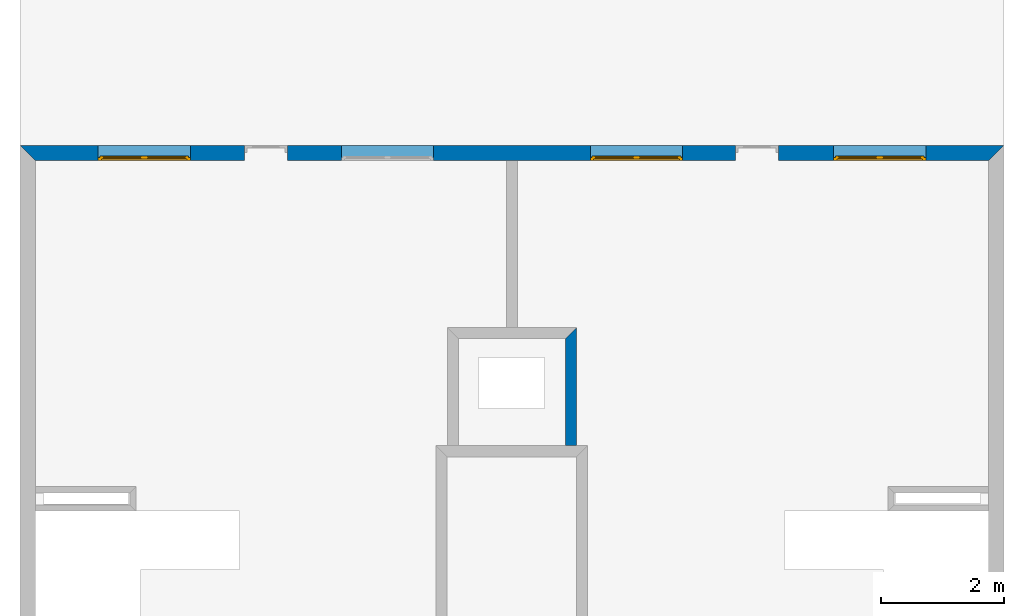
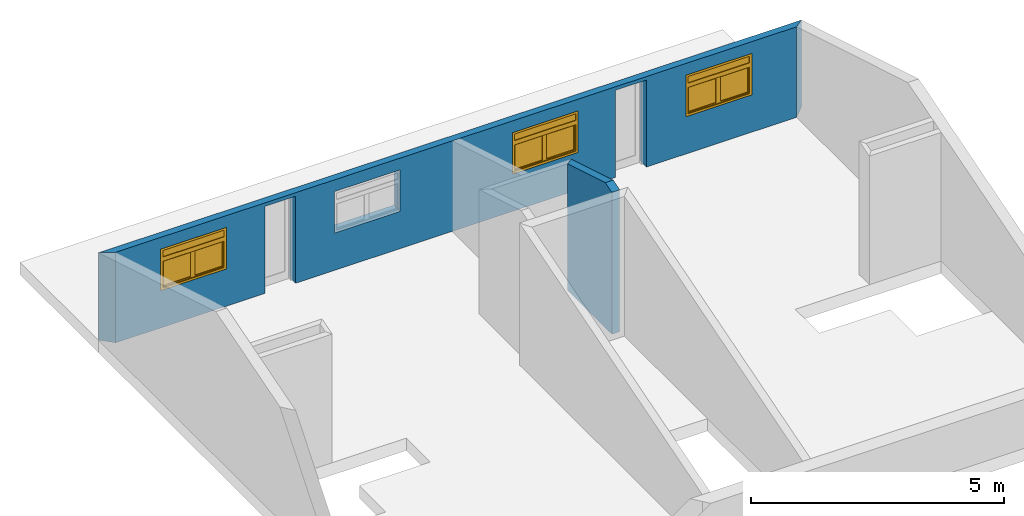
# One storey, part 2 of 3: 3 windows, 2 walls, 6 openings.
"""IFC2X3 building model written with IfcOpenShell, lengths in metres."""

from ifc_helpers import new_model, entity, si_unit, converted_unit, direction, frame, frame_2d, origin_with_axes, place, context, project, spatial, polyline, rectangle, outline, extrude, clip, bounded_halfspace, faceted_brep, source, transform, mapped, material, layer, layer_set, layer_usage, type_object, element, fill, save


model = new_model("IFC2X3")

# Units and contexts
context_of_model = context(None, 3, precision=1e-05, world=origin_with_axes(), true_north=direction((6.123234e-17, 1.0)))
plan_context = context("Plan", 3, precision=1e-05, world=origin_with_axes(), true_north=direction((6.123234e-17, 1.0)))
model_context = context("Model", 3, precision=1e-05, world=origin_with_axes(), true_north=direction((6.123234e-17, 1.0)))
ifc_project = project(units=[si_unit("LENGTHUNIT", "METRE"), si_unit("AREAUNIT", "SQUARE_METRE"), si_unit("VOLUMEUNIT", "CUBIC_METRE"), converted_unit("PLANEANGLEUNIT", "DEGREE", entity("IfcPlaneAngleMeasure", 0.017453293), si_unit("PLANEANGLEUNIT", "RADIAN"), dimensions=[0, 0, 0, 0, 0, 0, 0]), si_unit("SOLIDANGLEUNIT", "STERADIAN"), si_unit("MASSUNIT", "GRAM"), si_unit("TIMEUNIT", "SECOND"), si_unit("THERMODYNAMICTEMPERATUREUNIT", "DEGREE_CELSIUS"), si_unit("LUMINOUSINTENSITYUNIT", "LUMEN")], contexts=[context_of_model, plan_context, model_context])

# Site, building, storey
site_placement = place(None, origin_with_axes())
site = spatial("IfcSite", under=ifc_project, at=site_placement, Name="Por defecto Sitio", CompositionType="ELEMENT")
building_placement = place(site_placement, origin_with_axes())
building = spatial("IfcBuilding", under=site, at=building_placement, Name="Por defecto Edificio", CompositionType="ELEMENT")
storey_placement = place(building_placement, frame((0.0, 0.0, 16.2), z_axis=(0.0, 0.0, 1.0), x_axis=(1.0, 0.0, 0.0)))
storey = spatial("IfcBuildingStorey", under=building, at=storey_placement, Name="Bajo cubierta", CompositionType="ELEMENT", Elevation=16.2)

# Wall, openings, windows
ifc_material = material(Name="Ladrillo común")
ifc_layer_1 = layer(ifc_material, 0.25, ventilated="UNKNOWN")
ifc_layer_set_1 = layer_set([ifc_layer_1], Name="Ladrillo común")
ifc_layer_usage_1 = layer_usage(ifc_layer_set_1, "AXIS2", "POSITIVE", 0.0)
wall_type_1 = type_object("IfcWallType", Name="Ladrillo común", PredefinedType="NOTDEFINED")
wall_1_placement = place(storey_placement, frame((16.03417, 12.372599, 0.0), z_axis=(0.0, 0.0, 1.0), x_axis=(-1.0, 0.0, 0.0)))
wall_1 = element("IfcWallStandardCase", 1, at=wall_1_placement, inside=storey, type_object=wall_type_1, material=ifc_layer_usage_1, Name="Muro-018", context=context_of_model, shape_type="Clipping", body=[
    clip(extrude(outline(polyline([(0.0, 0.0), (16.03417, 0.0), (15.78417, 0.25), (0.25, 0.25), (0.0, 0.0)])), origin_with_axes(), (0.0, 0.0, 1.0), 3.5), bounded_halfspace(frame((2.9219849e-17, -0.58049391, 1.934887), z_axis=(1.4464632e-17, -0.28736052, 0.95782249), x_axis=(0.0, 0.95782249, 0.28736052)), False, origin_with_axes(), polyline([(16.03417, 4.6362995), (5.6488147e-13, 4.6362995), (5.6488147e-13, -0.40882873), (16.03417, -0.40882873), (16.03417, 4.6362995)]))),
])
opening_1_placement = place(wall_1_placement, frame((12.028221, 0.0, 0.0), z_axis=(0.0, 0.0, 1.0), x_axis=(1.0, 0.0, 0.0)))
element("IfcOpeningElement", 2, at=opening_1_placement, cuts=wall_1, ObjectType="Opening", context=model_context, shape_type="SweptSolid", body=[
    extrude(rectangle(XDim=0.7, YDim=2.1, at=frame_2d((0.0, 1.05), x_axis=(-1.0, 0.0))), frame((0.0, 0.0, 0.0), z_axis=(0.0, 1.0, 0.0), x_axis=(-1.0, 0.0, 0.0)), (0.0, 0.0, 1.0), 0.25),
])
opening_2_placement = place(wall_1_placement, frame((4.0278001, 0.0, 0.0), z_axis=(0.0, 0.0, 1.0), x_axis=(1.0, 0.0, 0.0)))
element("IfcOpeningElement", 3, at=opening_2_placement, cuts=wall_1, ObjectType="Opening", context=model_context, shape_type="SweptSolid", body=[
    extrude(rectangle(XDim=0.7, YDim=2.1, at=frame_2d((0.0, 1.05), x_axis=(-1.0, 0.0))), frame((0.0, 0.0, 0.0), z_axis=(0.0, 1.0, 0.0), x_axis=(-1.0, 0.0, 0.0)), (0.0, 0.0, 1.0), 0.25),
])
opening_3_placement = place(wall_1_placement, frame((5.9881821, 0.0, 0.9), z_axis=(0.0, 0.0, 1.0), x_axis=(1.0, 0.0, 0.0)))
opening_3 = element("IfcOpeningElement", 4, at=opening_3_placement, cuts=wall_1, ObjectType="Opening", context=model_context, shape_type="SweptSolid", body=[
    extrude(rectangle(XDim=1.5, YDim=1.0, at=frame_2d((0.0, 0.5), x_axis=(1.0, 0.0))), frame((0.0, 0.0, 0.0), z_axis=(0.0, 1.0, 0.0), x_axis=(-1.0, 0.0, 0.0)), (0.0, 0.0, 1.0), 0.25),
])
opening_4_placement = place(wall_1_placement, frame((2.024733, 0.0, 0.9), z_axis=(0.0, 0.0, 1.0), x_axis=(1.0, 0.0, 0.0)))
opening_4 = element("IfcOpeningElement", 5, at=opening_4_placement, cuts=wall_1, ObjectType="Opening", context=model_context, shape_type="SweptSolid", body=[
    extrude(rectangle(XDim=1.5, YDim=1.0, at=frame_2d((0.0, 0.5), x_axis=(-1.0, 0.0))), frame((0.0, 0.0, 0.0), z_axis=(0.0, 1.0, 0.0), x_axis=(-1.0, 0.0, 0.0)), (0.0, 0.0, 1.0), 0.25),
])
opening_5_placement = place(wall_1_placement, frame((10.046584, 0.0, 0.9), z_axis=(0.0, 0.0, 1.0), x_axis=(1.0, 0.0, 0.0)))
element("IfcOpeningElement", 6, at=opening_5_placement, cuts=wall_1, ObjectType="Opening", context=model_context, shape_type="SweptSolid", body=[
    extrude(rectangle(XDim=1.5, YDim=1.0, at=frame_2d((0.0, 0.5), x_axis=(-1.0, 0.0))), frame((0.0, 0.0, 0.0), z_axis=(0.0, 1.0, 0.0), x_axis=(-1.0, 0.0, 0.0)), (0.0, 0.0, 1.0), 0.25),
])
opening_6_placement = place(wall_1_placement, frame((14.009437, 0.0, 0.9), z_axis=(0.0, 0.0, 1.0), x_axis=(1.0, 0.0, 0.0)))
opening_6 = element("IfcOpeningElement", 7, at=opening_6_placement, cuts=wall_1, ObjectType="Opening", context=model_context, shape_type="SweptSolid", body=[
    extrude(rectangle(XDim=1.5, YDim=1.0, at=frame_2d((0.0, 0.5), x_axis=(1.0, 0.0))), frame((0.0, 0.0, 0.0), z_axis=(0.0, 1.0, 0.0), x_axis=(-1.0, 0.0, 0.0)), (0.0, 0.0, 1.0), 0.25),
])
window_style_1 = type_object("IfcWindowStyle", Name="V M Doble 12", ConstructionType="NOTDEFINED", OperationType="DOUBLE_PANEL_HORIZONTAL", ParameterTakesPrecedence=False, Sizeable=False)
shared_shape = source(origin_with_axes(), model_context, "Body", "Brep", [
    faceted_brep([(0.025, 0.05, 0.05), (0.0, 0.05, 0.05), (0.0, 0.05, 0.95), (0.05, 0.05, 0.95), (0.05, 0.05, 0.79), (0.05, 0.05, 0.715), (0.025, 0.05, 0.715), (0.025, 0.025, 0.05), (0.05, 0.025, 0.05), (0.05, 0.0, 0.05), (0.0, 0.0, 0.05), (0.0, 0.0, 0.95), (0.05, 0.0, 0.95), (0.05, 0.0, 0.79), (0.05, 0.025, 0.715), (0.05, 0.0, 0.69), (0.05, 0.025, 0.69), (0.025, 0.025, 0.715)], [[[0, 1, 2, 3, 4, 5, 6]], [[7, 8, 9, 10, 1, 0]], [[2, 1, 10, 11]], [[3, 2, 11, 12]], [[4, 3, 12, 13]], [[14, 5, 4, 13, 15, 16]], [[14, 17, 6, 5]], [[6, 17, 7, 0]], [[16, 8, 7, 17, 14]], [[16, 15, 9, 8]], [[13, 12, 11, 10, 9, 15]]]),
    faceted_brep([(1.475, 0.05, 0.715), (1.45, 0.05, 0.715), (1.45, 0.05, 0.79), (1.45, 0.05, 0.95), (1.5, 0.05, 0.95), (1.5, 0.05, 0.05), (1.475, 0.05, 0.05), (1.475, 0.025, 0.715), (1.45, 0.025, 0.715), (1.45, 0.025, 0.69), (1.45, 0.0, 0.69), (1.45, 0.0, 0.79), (1.45, 0.0, 0.95), (1.5, 0.0, 0.95), (1.5, 0.0, 0.05), (1.475, 0.025, 0.05), (1.45, 0.0, 0.05), (1.45, 0.025, 0.05)], [[[0, 1, 2, 3, 4, 5, 6]], [[0, 7, 8, 1]], [[8, 9, 10, 11, 2, 1]], [[3, 2, 11, 12]], [[4, 3, 12, 13]], [[5, 4, 13, 14]], [[15, 6, 5, 14, 16, 17]], [[6, 15, 7, 0]], [[17, 9, 8, 7, 15]], [[17, 16, 10, 9]], [[14, 13, 12, 11, 10, 16]]]),
    faceted_brep([(0.05, 0.05, 0.715), (0.05, 0.05, 0.79), (1.45, 0.05, 0.79), (1.45, 0.05, 0.715), (0.75, 0.05, 0.715), (0.05, 0.025, 0.715), (0.05, 0.025, 0.69), (0.05, 0.0, 0.69), (0.05, 0.0, 0.79), (1.45, 0.0, 0.79), (1.45, 0.025, 0.715), (1.45, 0.0, 0.69), (1.45, 0.025, 0.69), (0.75, 0.025, 0.715)], [[[0, 1, 2, 3, 4]], [[5, 6, 7, 8, 1, 0]], [[2, 1, 8, 9]], [[10, 3, 2, 9, 11, 12]], [[10, 13, 4, 3]], [[4, 13, 5, 0]], [[12, 6, 5, 13, 10]], [[12, 11, 7, 6]], [[9, 8, 7, 11]]]),
    faceted_brep([(1.45, 0.025, 0.05), (1.45, 0.0, 0.05), (1.5, 0.0, 0.05), (1.5, 0.05, 0.05), (1.475, 0.05, 0.05), (1.475, 0.025, 0.05), (0.05, 0.025, 0.05), (0.05, 0.0, 0.05), (0.0, 0.0, 0.05), (0.0, 0.0, 0.0), (1.5, 0.0, 0.0), (1.5, 0.05, 0.0), (0.025, 0.05, 0.025), (0.75, 0.05, 0.025), (1.475, 0.05, 0.025), (0.0, 0.05, 0.0), (0.0, 0.05, 0.05), (0.025, 0.05, 0.05), (1.475, 0.025, 0.025), (0.75, 0.025, 0.025), (0.025, 0.025, 0.025), (0.025, 0.025, 0.05)], [[[0, 1, 2, 3, 4, 5]], [[6, 7, 1, 0]], [[8, 9, 10, 2, 1, 7]], [[11, 3, 2, 10]], [[12, 13, 14, 4, 3, 11, 15, 16, 17]], [[14, 18, 5, 4]], [[5, 18, 19, 20, 21, 6, 0]], [[21, 17, 16, 8, 7, 6]], [[16, 15, 9, 8]], [[15, 11, 10, 9]], [[12, 20, 19, 13]], [[13, 19, 18, 14]], [[21, 20, 12, 17]]]),
    faceted_brep([(1.45, 0.0, 0.95), (1.45, 0.05, 0.95), (1.5, 0.05, 0.95), (1.5, 0.0, 0.95), (0.05, 0.0, 0.95), (0.05, 0.05, 0.95), (0.0, 0.05, 0.95), (0.0, 0.05, 1.0), (1.5, 0.05, 1.0), (1.5, 0.0, 1.0), (0.0, 0.0, 1.0), (0.0, 0.0, 0.95)], [[[0, 1, 2, 3]], [[4, 5, 1, 0]], [[1, 5, 6, 7, 8, 2]], [[3, 2, 8, 9]], [[0, 3, 9, 10, 11, 4]], [[11, 6, 5, 4]], [[10, 7, 6, 11]], [[9, 8, 7, 10]]]),
    faceted_brep([(1.425, 0.025, 0.075), (1.425, 0.025, 0.665), (1.425, 0.075, 0.665), (1.425, 0.075, 0.075), (1.475, 0.025, 0.075), (1.475, 0.025, 0.665), (1.475, 0.075, 0.665), (1.475, 0.075, 0.075)], [[[0, 1, 2, 3]], [[0, 4, 5, 1]], [[1, 5, 6, 2]], [[3, 2, 6, 7]], [[4, 0, 3, 7]], [[5, 4, 7, 6]]]),
    faceted_brep([(0.75, 0.025, 0.075), (0.75, 0.025, 0.665), (0.75, 0.075, 0.665), (0.75, 0.075, 0.075), (0.8, 0.025, 0.075), (0.8, 0.025, 0.665), (0.8, 0.075, 0.665), (0.8, 0.075, 0.075)], [[[0, 1, 2, 3]], [[0, 4, 5, 1]], [[1, 5, 6, 2]], [[3, 2, 6, 7]], [[4, 0, 3, 7]], [[5, 4, 7, 6]]]),
    faceted_brep([(0.75, 0.025, 0.025), (0.75, 0.025, 0.075), (0.75, 0.075, 0.075), (0.75, 0.075, 0.025), (1.475, 0.025, 0.025), (1.475, 0.025, 0.075), (1.425, 0.025, 0.075), (0.8, 0.025, 0.075), (0.8, 0.075, 0.075), (1.425, 0.075, 0.075), (1.475, 0.075, 0.075), (1.475, 0.075, 0.025)], [[[0, 1, 2, 3]], [[0, 4, 5, 6, 7, 1]], [[1, 7, 8, 2]], [[3, 2, 8, 9, 10, 11]], [[4, 0, 3, 11]], [[5, 4, 11, 10]], [[6, 5, 10, 9]], [[7, 6, 9, 8]]]),
    faceted_brep([(1.475, 0.025, 0.715), (1.475, 0.025, 0.665), (1.475, 0.075, 0.665), (1.475, 0.075, 0.715), (0.75, 0.025, 0.715), (0.75, 0.025, 0.665), (0.8, 0.025, 0.665), (1.425, 0.025, 0.665), (1.425, 0.075, 0.665), (0.8, 0.075, 0.665), (0.75, 0.075, 0.665), (0.75, 0.075, 0.715)], [[[0, 1, 2, 3]], [[0, 4, 5, 6, 7, 1]], [[1, 7, 8, 2]], [[3, 2, 8, 9, 10, 11]], [[4, 0, 3, 11]], [[5, 4, 11, 10]], [[6, 5, 10, 9]], [[7, 6, 9, 8]]]),
    faceted_brep([(1.425, 0.04, 0.075), (0.8, 0.04, 0.075), (0.8, 0.06, 0.075), (1.425, 0.06, 0.075), (1.425, 0.04, 0.665), (0.8, 0.04, 0.665), (0.8, 0.06, 0.665), (1.425, 0.06, 0.665)], [[[0, 1, 2, 3]], [[0, 4, 5, 1]], [[1, 5, 6, 2]], [[3, 2, 6, 7]], [[4, 0, 3, 7]], [[5, 4, 7, 6]]]),
    faceted_brep([(0.7, 0.025, 0.075), (0.7, 0.025, 0.665), (0.7, 0.075, 0.665), (0.7, 0.075, 0.075), (0.75, 0.025, 0.075), (0.75, 0.025, 0.665), (0.75, 0.075, 0.665), (0.75, 0.075, 0.075)], [[[0, 1, 2, 3]], [[0, 4, 5, 1]], [[1, 5, 6, 2]], [[3, 2, 6, 7]], [[4, 0, 3, 7]], [[5, 4, 7, 6]]]),
    faceted_brep([(0.025, 0.025, 0.075), (0.025, 0.025, 0.665), (0.025, 0.075, 0.665), (0.025, 0.075, 0.075), (0.075, 0.025, 0.075), (0.075, 0.025, 0.665), (0.075, 0.075, 0.665), (0.075, 0.075, 0.075)], [[[0, 1, 2, 3]], [[0, 4, 5, 1]], [[1, 5, 6, 2]], [[3, 2, 6, 7]], [[4, 0, 3, 7]], [[5, 4, 7, 6]]]),
    faceted_brep([(0.025, 0.025, 0.025), (0.025, 0.025, 0.075), (0.025, 0.075, 0.075), (0.025, 0.075, 0.025), (0.75, 0.025, 0.025), (0.75, 0.025, 0.075), (0.7, 0.025, 0.075), (0.075, 0.025, 0.075), (0.075, 0.075, 0.075), (0.7, 0.075, 0.075), (0.75, 0.075, 0.075), (0.75, 0.075, 0.025)], [[[0, 1, 2, 3]], [[0, 4, 5, 6, 7, 1]], [[1, 7, 8, 2]], [[3, 2, 8, 9, 10, 11]], [[4, 0, 3, 11]], [[5, 4, 11, 10]], [[6, 5, 10, 9]], [[7, 6, 9, 8]]]),
    faceted_brep([(0.75, 0.025, 0.715), (0.75, 0.025, 0.665), (0.75, 0.075, 0.665), (0.75, 0.075, 0.715), (0.025, 0.025, 0.715), (0.025, 0.025, 0.665), (0.075, 0.025, 0.665), (0.7, 0.025, 0.665), (0.7, 0.075, 0.665), (0.075, 0.075, 0.665), (0.025, 0.075, 0.665), (0.025, 0.075, 0.715)], [[[0, 1, 2, 3]], [[0, 4, 5, 6, 7, 1]], [[1, 7, 8, 2]], [[3, 2, 8, 9, 10, 11]], [[4, 0, 3, 11]], [[5, 4, 11, 10]], [[6, 5, 10, 9]], [[7, 6, 9, 8]]]),
    faceted_brep([(0.7, 0.04, 0.075), (0.075, 0.04, 0.075), (0.075, 0.06, 0.075), (0.7, 0.06, 0.075), (0.7, 0.04, 0.665), (0.075, 0.04, 0.665), (0.075, 0.06, 0.665), (0.7, 0.06, 0.665)], [[[0, 1, 2, 3]], [[0, 4, 5, 1]], [[1, 5, 6, 2]], [[3, 2, 6, 7]], [[4, 0, 3, 7]], [[5, 4, 7, 6]]]),
    faceted_brep([(1.45, 0.015, 0.79), (0.05, 0.015, 0.79), (0.05, 0.035, 0.79), (1.45, 0.035, 0.79), (1.45, 0.015, 0.95), (0.05, 0.015, 0.95), (0.05, 0.035, 0.95), (1.45, 0.035, 0.95)], [[[0, 1, 2, 3]], [[0, 4, 5, 1]], [[1, 5, 6, 2]], [[3, 2, 6, 7]], [[4, 0, 3, 7]], [[5, 4, 7, 6]]]),
])
window_1_placement = place(opening_3_placement, frame((0.75, 0.25, 0.0), z_axis=(0.0, 0.0, 1.0), x_axis=(-1.0, 0.0, 0.0)))
window_1 = element("IfcWindow", 8, at=window_1_placement, inside=storey, type_object=window_style_1, Name="V05", OverallHeight=1.0, OverallWidth=1.5, context=model_context, shape_type="MappedRepresentation", body=[
    mapped(shared_shape, transform((0.0, 0.0, 0.0), scale=1.0)),
])
fill(opening_3, window_1)
window_style_2 = type_object("IfcWindowStyle", Name="V M Doble 12", ConstructionType="NOTDEFINED", OperationType="DOUBLE_PANEL_HORIZONTAL", ParameterTakesPrecedence=False, Sizeable=False)
window_2_placement = place(opening_4_placement, frame((0.75, 0.25, 0.0), z_axis=(0.0, 0.0, 1.0), x_axis=(-1.0, 0.0, 0.0)))
window_2 = element("IfcWindow", 9, at=window_2_placement, inside=storey, type_object=window_style_2, Name="V06", OverallHeight=1.0, OverallWidth=1.5, context=model_context, shape_type="MappedRepresentation", body=[
    mapped(shared_shape, transform((0.0, 0.0, 0.0), scale=1.0)),
])
fill(opening_4, window_2)
window_style_3 = type_object("IfcWindowStyle", Name="V M Doble 12", ConstructionType="NOTDEFINED", OperationType="DOUBLE_PANEL_HORIZONTAL", ParameterTakesPrecedence=False, Sizeable=False)
window_3_placement = place(opening_6_placement, frame((0.75, 0.25, 0.0), z_axis=(0.0, 0.0, 1.0), x_axis=(-1.0, 0.0, 0.0)))
window_3 = element("IfcWindow", 10, at=window_3_placement, inside=storey, type_object=window_style_3, Name="V08", OverallHeight=1.0, OverallWidth=1.5, context=model_context, shape_type="MappedRepresentation", body=[
    mapped(shared_shape, transform((0.0, 0.0, 0.0), scale=1.0)),
])
fill(opening_6, window_3)

# Wall
ifc_layer_2 = layer(ifc_material, 0.18, ventilated="UNKNOWN")
ifc_layer_set_2 = layer_set([ifc_layer_2], Name="Ladrillo común")
ifc_layer_usage_2 = layer_usage(ifc_layer_set_2, "AXIS2", "NEGATIVE", 0.0)
wall_type_2 = type_object("IfcWallType", Name="Ladrillo común", PredefinedType="NOTDEFINED")
wall_2_placement = place(storey_placement, frame((9.065, 9.4007615, 0.0), z_axis=(0.0, 0.0, 1.0), x_axis=(0.0, -1.0, 0.0)))
element("IfcWallStandardCase", 11, at=wall_2_placement, inside=storey, type_object=wall_type_2, material=ifc_layer_usage_2, Name="Muro-012", context=context_of_model, shape_type="Clipping", body=[
    clip(clip(extrude(outline(polyline([(0.18, -0.18), (1.9231052, -0.18), (1.9231052, 0.0), (0.0, 0.0), (0.18, -0.18)])), origin_with_axes(), (0.0, 0.0, 1.0), 3.5), bounded_halfspace(frame((1.100786, -1.1790611e-16, 3.6691109), z_axis=(0.28736052, -3.0779424e-17, 0.95782249), x_axis=(0.0, 1.0, 0.0)), False, origin_with_axes(), polyline([(1.6644619, -9.065), (10.683656, -9.065), (10.683656, 6.9691698), (1.6644619, 6.9691698), (1.6644619, -9.065)]))), bounded_halfspace(frame((-0.82589657, -4.1572482e-17, 2.7528566), z_axis=(-0.28736052, -1.4464632e-17, 0.95782249), x_axis=(0.0, 1.0, 0.0)), False, origin_with_axes(), polyline([(1.6644619, -9.065), (1.6644619, 6.9691698), (-3.3806663, 6.9691698), (-3.3806663, -9.065), (1.6644619, -9.065)]))),
])

save(model, "model.ifc")
